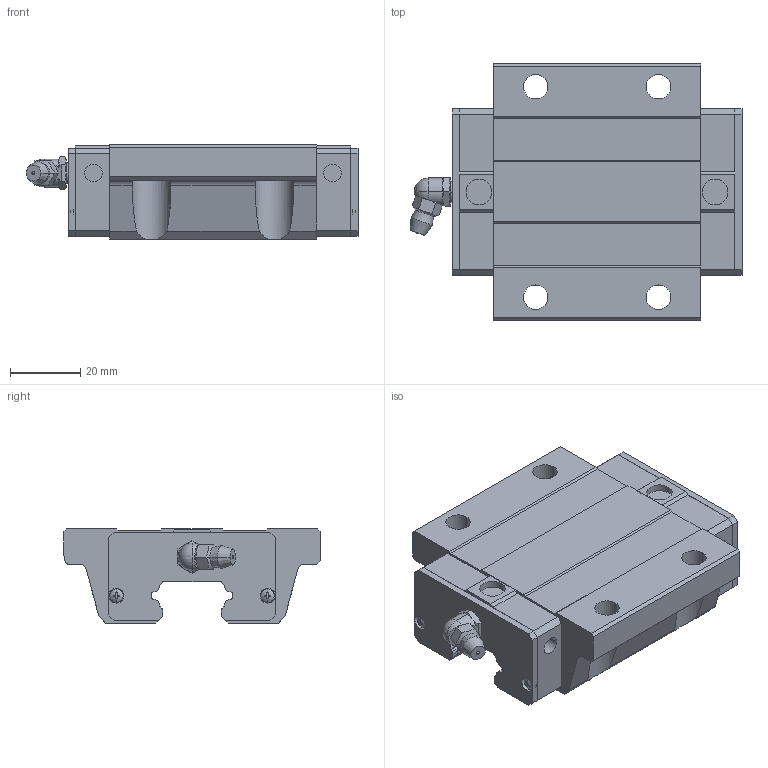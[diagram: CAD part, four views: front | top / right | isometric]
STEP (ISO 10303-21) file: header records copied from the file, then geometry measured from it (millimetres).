
FILE_DESCRIPTION(('starvars output'),'2;1');
FILE_NAME('cv20190626223837000075159.stp','22:38:37 2019/06/26',( 'Thomas Industrial Network Germany GmbH'),( 'Thomas Industrial Network Germany GmbH'),'unknown preprocess','ACIS' ,'unknown authorization');
FILE_SCHEMA(('CONFIG_CONTROL_DESIGN {UNKNOWN IMPLEMENTATION LEVEL}'));
Length unit declared in the file: millimetre
Products named in the file (10): PRODUCT_ID_1; PRODUCT_ID_2; PRODUCT_ID_3; PRODUCT_ID_4; PRODUCT_ID_5; PRODUCT_ID_6; PRODUCT_ID_7; PRODUCT_ID_8; PRODUCT_ID_9; PRODUCT_ID_10
Bounding box: 94.6 x 73 x 26.8 mm (x, y, z)
Volume: 104601.9 mm3; surface area: 29774.1 mm2
Topology: 10 solids, 10 shells, 425 faces, 1140 edges, 744 vertices
Faces by surface type: plane 235, cylinder 138, cone 40, sphere 12
Entity records: 13020 total; most frequent: ORIENTED_EDGE 2272, CARTESIAN_POINT 2146, DIRECTION 1919, EDGE_CURVE 1136, VERTEX_POINT 744, AXIS2_PLACEMENT_3D 643, VECTOR 633, LINE 633
